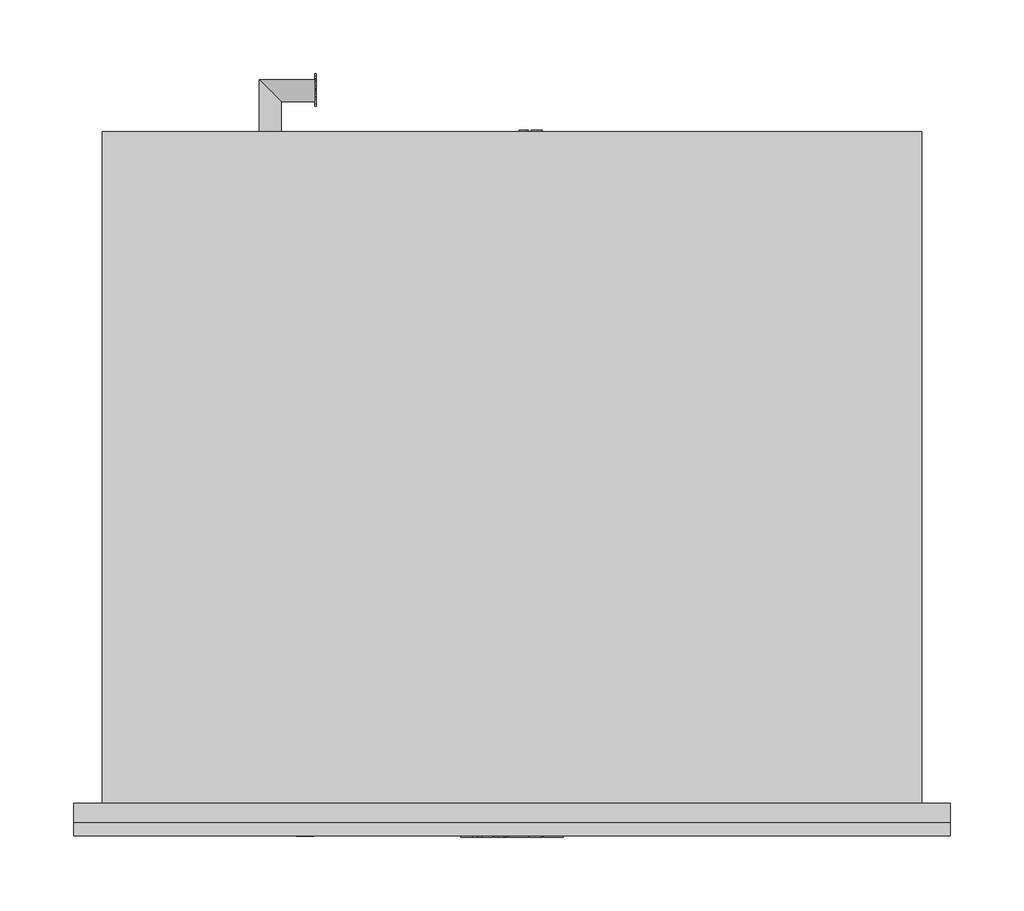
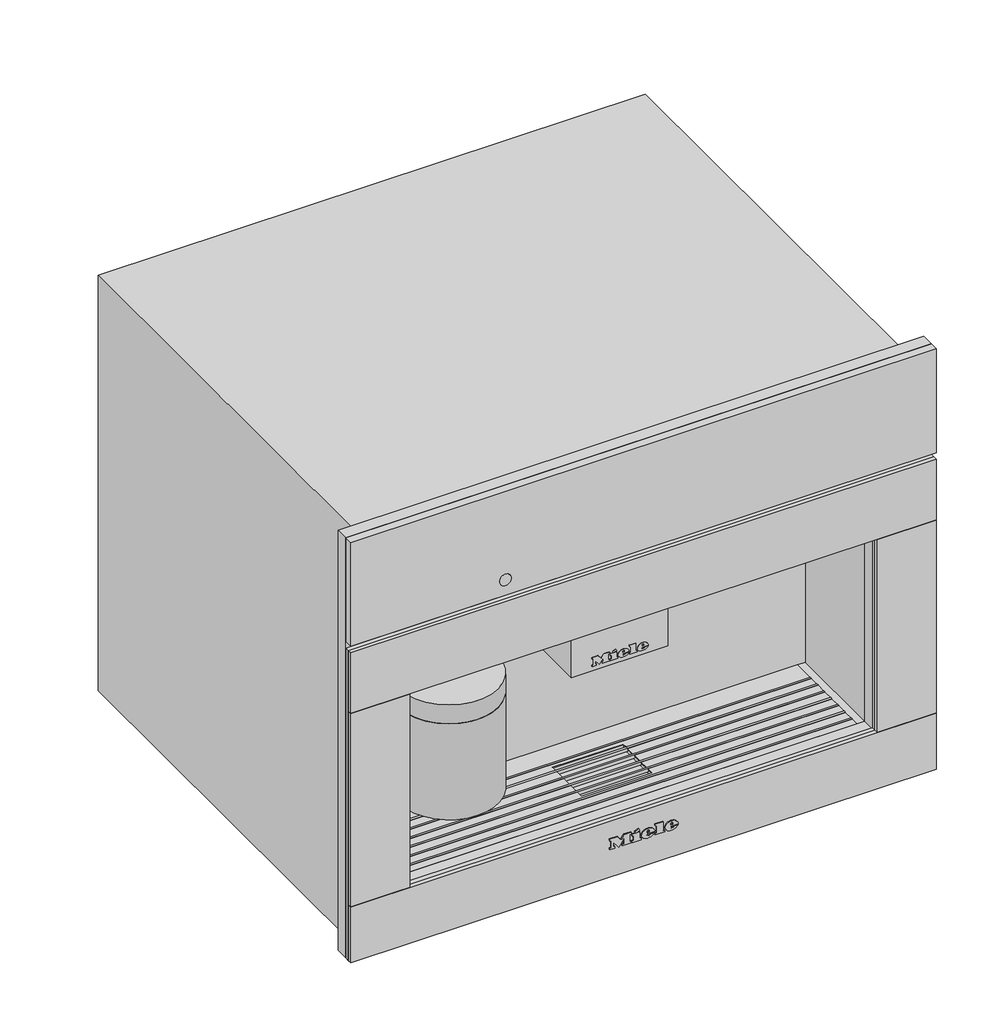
# Not in any storey: 1 proxy.
"""IFC4 building model written with IfcOpenShell, lengths in millimetres."""

from ifc_helpers import new_model, si_unit, origin, place, context, project, spatial, transform, mapped, element, save
from components import specialty_equipment_a9d6c1d4

model = new_model("IFC4")

# Units and contexts
model_context = context("Model", 3, world=origin())
ifc_project = project(units=[si_unit("LENGTHUNIT", "METRE", prefix="MILLI")], contexts=[model_context])

# Site, building
site = spatial("IfcSite", under=ifc_project)
building = spatial("IfcBuilding", under=site)

# Proxy
placement = place(None, origin())
specialty_equipment_shape = specialty_equipment_a9d6c1d4(model_context)
element("IfcBuildingElementProxy", 1, Name="11163990_EU1_CVA7845_GRGR : 29784530_EU1_11163990_CVA7845_GRGR", ObjectType="11163990_EU1_CVA7845_GRGR : 29784530_EU1_11163990_CVA7845_GRGR", at=placement, inside=building, context=model_context, shape_type="MappedRepresentation", body=[
    mapped(specialty_equipment_shape, transform((0.0, 0.0, 0.0), x_axis=(1.0, 0.0, 0.0), y_axis=(0.0, 1.0, 0.0), z_axis=(0.0, 0.0, 1.0))),
])

save(model, "model.ifc")
